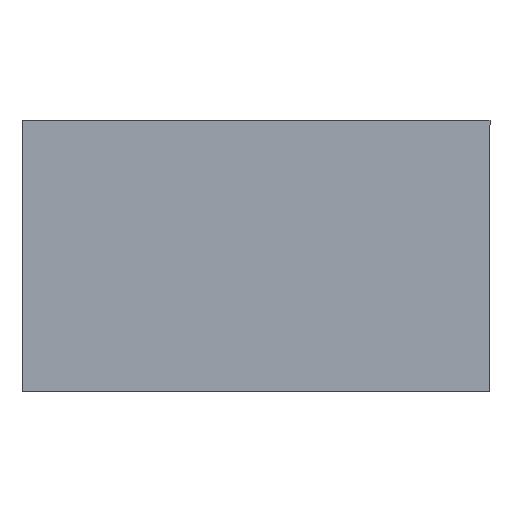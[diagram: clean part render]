
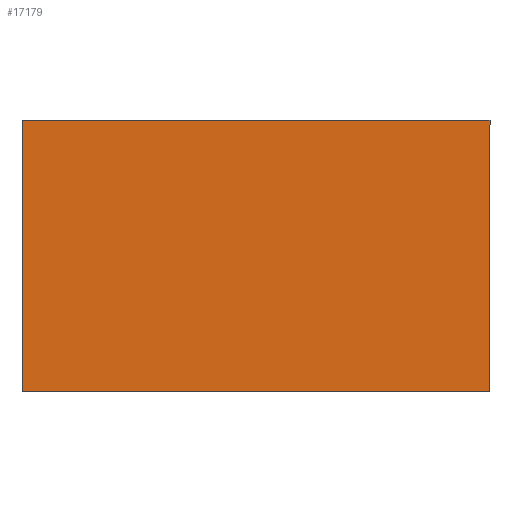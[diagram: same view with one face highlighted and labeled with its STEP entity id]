
A CAD part, front view. The second image highlights one B-rep face of the part: STEP entity #17179.
In plain terms, the highlighted planar face has unit normal (0, -1, 0).
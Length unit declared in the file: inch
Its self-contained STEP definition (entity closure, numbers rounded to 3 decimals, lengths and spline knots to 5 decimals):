
#323 = CARTESIAN_POINT ( 'NONE',  ( 14.43495, -6.8825, 8.43495 ) ) ;
#1413 = DIRECTION ( 'NONE',  ( 0., 1., 0. ) ) ;
#3604 = DIRECTION ( 'NONE',  ( 0., 0., -1. ) ) ;
#4539 = EDGE_CURVE ( 'NONE', #12414, #19396, #24604, .T. ) ;
#4766 = ORIENTED_EDGE ( 'NONE', *, *, #19438, .F. ) ;
#7126 = CARTESIAN_POINT ( 'NONE',  ( -14.43495, -6.8825, 8.43495 ) ) ;
#7191 = EDGE_CURVE ( 'NONE', #27777, #12414, #16331, .T. ) ;
#7253 = VERTEX_POINT ( 'NONE', #25019 ) ;
#8073 = DIRECTION ( 'NONE',  ( 1., 0., 0. ) ) ;
#8426 = DIRECTION ( 'NONE',  ( 0., 0., 1. ) ) ;
#8690 = CARTESIAN_POINT ( 'NONE',  ( 14.43495, -6.8825, -8.336 ) ) ;
#9762 = ORIENTED_EDGE ( 'NONE', *, *, #7191, .F. ) ;
#9858 = VECTOR ( 'NONE', #3604, 39.37008 ) ;
#12078 = LINE ( 'NONE', #8690, #39215 ) ;
#12414 = VERTEX_POINT ( 'NONE', #7126 ) ;
#14196 = FACE_OUTER_BOUND ( 'NONE', #38277, .T. ) ;
#16331 = LINE ( 'NONE', #37726, #33691 ) ;
#17179 = ADVANCED_FACE ( 'NONE', ( #14196 ), #40588, .F. ) ;
#18584 = LINE ( 'NONE', #323, #9858 ) ;
#19396 = VERTEX_POINT ( 'NONE', #21592 ) ;
#19438 = EDGE_CURVE ( 'NONE', #7253, #27777, #12078, .T. ) ;
#20213 = AXIS2_PLACEMENT_3D ( 'NONE', #33978, #1413, #24319 ) ;
#21592 = CARTESIAN_POINT ( 'NONE',  ( 14.43495, -6.8825, 8.43495 ) ) ;
#24319 = DIRECTION ( 'NONE',  ( 0., 0., 1. ) ) ;
#24604 = LINE ( 'NONE', #30945, #32219 ) ;
#25019 = CARTESIAN_POINT ( 'NONE',  ( 14.43495, -6.8825, -8.336 ) ) ;
#27777 = VERTEX_POINT ( 'NONE', #39173 ) ;
#30945 = CARTESIAN_POINT ( 'NONE',  ( -14.43495, -6.8825, 8.43495 ) ) ;
#31556 = DIRECTION ( 'NONE',  ( -1., 0., 0. ) ) ;
#32219 = VECTOR ( 'NONE', #8073, 39.37008 ) ;
#32892 = ORIENTED_EDGE ( 'NONE', *, *, #4539, .F. ) ;
#33691 = VECTOR ( 'NONE', #8426, 39.37008 ) ;
#33978 = CARTESIAN_POINT ( 'NONE',  ( 0., -6.8825, 0. ) ) ;
#36060 = ORIENTED_EDGE ( 'NONE', *, *, #37466, .F. ) ;
#37466 = EDGE_CURVE ( 'NONE', #19396, #7253, #18584, .T. ) ;
#37726 = CARTESIAN_POINT ( 'NONE',  ( -14.43495, -6.8825, -8.336 ) ) ;
#38277 = EDGE_LOOP ( 'NONE', ( #9762, #4766, #36060, #32892 ) ) ;
#39173 = CARTESIAN_POINT ( 'NONE',  ( -14.43495, -6.8825, -8.336 ) ) ;
#39215 = VECTOR ( 'NONE', #31556, 39.37008 ) ;
#40588 = PLANE ( 'NONE',  #20213 ) ;
